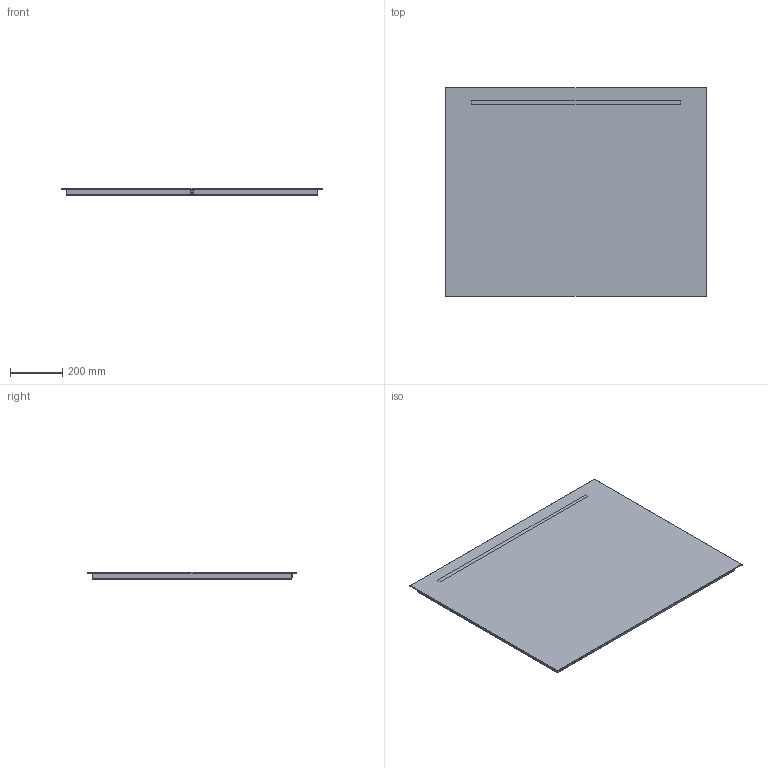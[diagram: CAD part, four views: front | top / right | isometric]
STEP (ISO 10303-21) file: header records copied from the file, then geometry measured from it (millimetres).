
FILE_DESCRIPTION (( 'STEP AP203' ), '1' );
FILE_NAME ('SPIEGEL MODEL 13 100CM.STEP', '2016-07-14T09:46:21', ( '' ), ( '' ), 'SwSTEP 2.0', 'SolidWorks 2016', '' );
FILE_SCHEMA (( 'CONFIG_CONTROL_DESIGN' ));
Length unit declared in the file: millimetre
Products named in the file (1): SPIEGEL MODEL 13 100CM
Bounding box: 1000 x 800 x 30 mm (x, y, z)
Volume: 4500524.6 mm3; surface area: 1803807.2 mm2
Topology: 2 solids, 2 shells, 69 faces, 148 edges, 90 vertices
Faces by surface type: plane 59, cylinder 8, torus 2
Entity records: 1893 total; most frequent: DIRECTION 308, CARTESIAN_POINT 308, ORIENTED_EDGE 296, EDGE_CURVE 148, VECTOR 128, LINE 128, AXIS2_PLACEMENT_3D 90, VERTEX_POINT 90
